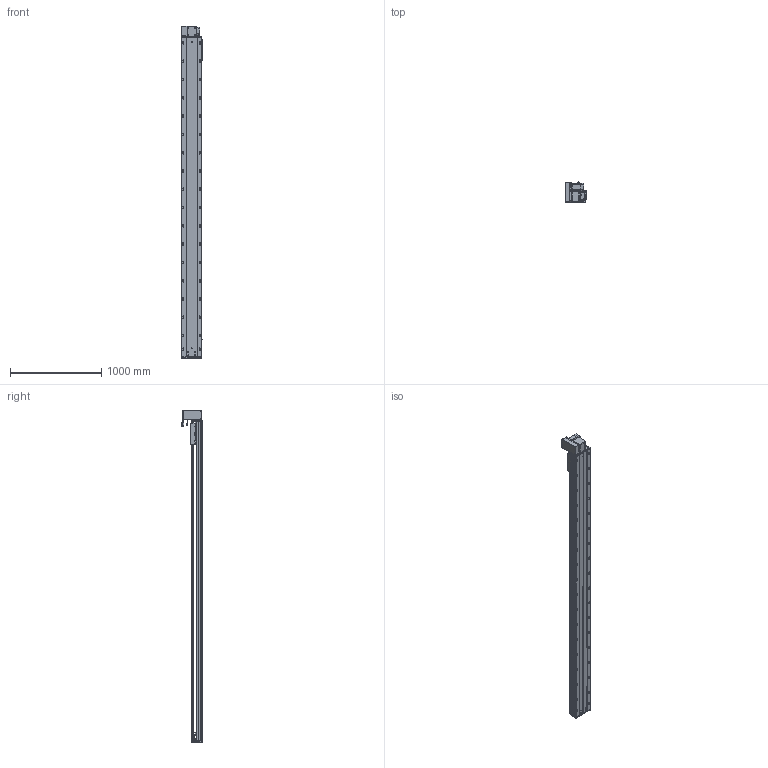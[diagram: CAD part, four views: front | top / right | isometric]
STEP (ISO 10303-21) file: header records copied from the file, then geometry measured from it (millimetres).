
FILE_DESCRIPTION (( 'STEP AP203' ), '1' );
FILE_NAME ('RY220-T-300-UL.SLDASM_3150.step', '2022-07-25T08:36:36', ( '' ), ( '' ), 'SwSTEP 2.0', 'SolidWorks 2016', '' );
FILE_SCHEMA (( 'CONFIG_CONTROL_DESIGN' ));
Length unit declared in the file: millimetre
Products named in the file (14): RY220-T-300-UL.SLDASM_3150; RY220-俋离672覜茼んえ; RY220-同步轮副支撑座6304×2; RY220-T菁釱-300_3150; RY220翋肮祭謫釱; 覜茼ん672; RY220翋肮祭謫裔啣; 怢湛750W_ECMA-CX0807ES; RY220圉猾敕々湍臏賑輸; RY220-T-蛌殏萇儂假蚾啣(750W); RY220-T-湍謫欶(鍼踢); RY220-T-300-奻裔啣_3150; 110A-T-肮祭謫釱傷裔; 滅袉蝶18-15
Assembly tree (18 placements, depth 2):
  RY220-T-300-UL.SLDASM_3150
    RY220-T菁釱-300_3150
    RY220翋肮祭謫釱
    覜茼ん672  x3
    RY220圉猾敕々湍臏賑輸
    RY220-T-300-奻裔啣_3150
    RY220-俋离672覜茼んえ
    滅袉蝶18-15  x3
    RY220翋肮祭謫裔啣  x2
    110A-T-肮祭謫釱傷裔
    怢湛750W_ECMA-CX0807ES
    RY220-T-湍謫欶(鍼踢)
    RY220-T-蛌殏萇儂假蚾啣(750W)
    RY220-同步轮副支撑座6304×2
Bounding box: 239.7 x 231.74 x 3630.5 mm (x, y, z)
Volume: 26173895.3 mm3; surface area: 8115781.6 mm2
Topology: 19 solids, 19 shells, 3066 faces, 8483 edges, 5302 vertices
Faces by surface type: cylinder 1522, plane 1069, cone 393, bspline 56, sphere 16, torus 10
Entity records: 102243 total; most frequent: CARTESIAN_POINT 28783, ORIENTED_EDGE 15162, DIRECTION 14688, EDGE_CURVE 7581, AXIS2_PLACEMENT_3D 5316, VERTEX_POINT 4926, LINE 4056, VECTOR 4056
